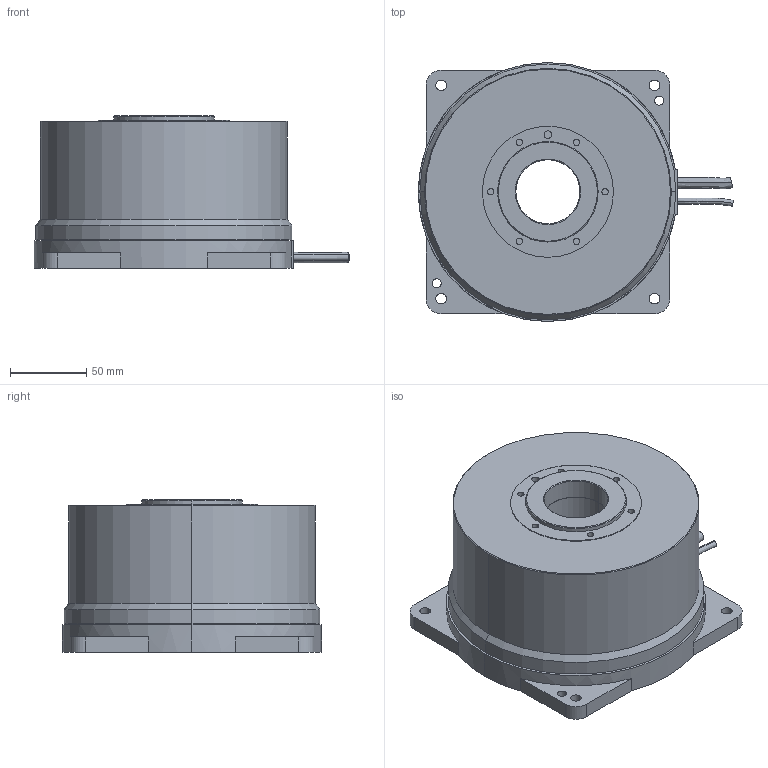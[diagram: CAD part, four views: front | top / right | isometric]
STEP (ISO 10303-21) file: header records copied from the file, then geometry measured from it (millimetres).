
FILE_DESCRIPTION (( 'STEP AP214' ), '1' );
FILE_NAME ('DMFE170-045FE.STEP', '2018-07-27T05:44:16', ( '微软用户' ), ( '微软中国' ), 'SwSTEP 2.0', 'SolidWorks 2014', '' );
FILE_SCHEMA (( 'AUTOMOTIVE_DESIGN' ));
Length unit declared in the file: millimetre
Products named in the file (1): DMFE170-045FE
Bounding box: 206.91 x 170 x 100 mm (x, y, z)
Surface area: 119722.3 mm2 (no closed solid volume)
Topology: 0 solids, 4 shells, 87 faces, 227 edges, 150 vertices
Faces by surface type: cylinder 50, plane 25, cone 8, bspline 4
Entity records: 3972 total; most frequent: CARTESIAN_POINT 729, DIRECTION 519, ORIENTED_EDGE 424, EDGE_CURVE 227, AXIS2_PLACEMENT_3D 212, VERTEX_POINT 150, CIRCLE 128, EDGE_LOOP 116
